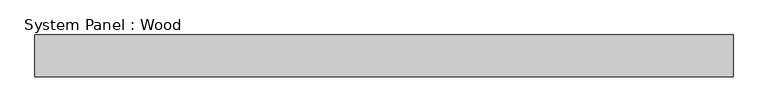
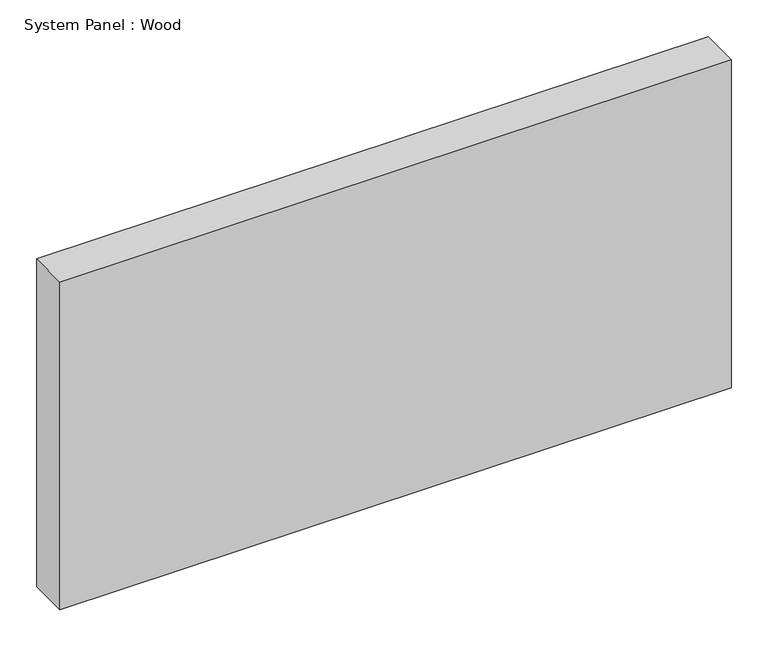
"""IFC4 building model written with IfcOpenShell, lengths in millimetres: plate geometry, System Panel : Wood."""

import ifcopenshell
import ifcopenshell.guid

model = None  # the IFC model being written
_history = None  # IfcOwnerHistory: only IFC2X3 demands one
_inside = {}  # id of a spatial element -> (the spatial element, [elements in it])
_under = {}  # id of a project, library or spatial element -> (it, [spatial elements below it])
_declared = {}  # id of a project -> (the project, [libraries it declares])
_typed = {}  # id of a type object -> (the type object, [elements of that type])
_made_of = {}  # id of a material, layer set ... -> (it, [elements and type objects made of it])


def new_model(schema):
    """Start an empty IFC model of exactly this schema.

    Asked for "IFC4X3", IfcOpenShell would pick the latest addendum, in which some entities
    have other attributes; the version numbers below select the first issue.
    IFC2X3 requires an IfcOwnerHistory on every rooted entity: one is made here for all.
    """
    global model, _history
    if schema == "IFC4X3":
        model = ifcopenshell.file(schema_version=(4, 3, 0, 0))
    else:
        model = ifcopenshell.file(schema=schema)
    _inside.clear()
    _under.clear()
    _declared.clear()
    _typed.clear()
    _made_of.clear()
    _history = None
    if model.schema == "IFC2X3":
        org = make("IfcOrganization", Name="unknown")
        user = make(
            "IfcPersonAndOrganization",
            ThePerson=make("IfcPerson", FamilyName="unknown"),
            TheOrganization=org,
        )
        app = make(
            "IfcApplication",
            ApplicationDeveloper=org,
            Version="unknown",
            ApplicationFullName="unknown",
            ApplicationIdentifier="unknown",
        )
        _history = make(
            "IfcOwnerHistory",
            OwningUser=user,
            OwningApplication=app,
            ChangeAction="ADDED",
            CreationDate=0,
        )
    return model


def make(cls, **values):
    """One entity of the class cls with the attributes given. An attribute that is None is left unset."""
    return model.create_entity(
        cls, **{name: value for name, value in values.items() if value is not None}
    )


def rooted(cls, **values):
    """An entity with a GlobalId (a new one), such as an element, a storey or a relation."""
    return make(cls, GlobalId=ifcopenshell.guid.new(), OwnerHistory=_history, **values)


def si_unit(unit_type, name, prefix=None):
    """IfcSIUnit, for example si_unit("LENGTHUNIT", "METRE", prefix="MILLI")."""
    return make("IfcSIUnit", UnitType=unit_type, Prefix=prefix, Name=name)


def assignment(units):
    """IfcUnitAssignment: the units of a project."""
    return None if units is None else make("IfcUnitAssignment", Units=units)


def point(xyz):
    """IfcCartesianPoint."""
    return None if xyz is None else make("IfcCartesianPoint", Coordinates=xyz)


def direction(xyz):
    """IfcDirection."""
    return None if xyz is None else make("IfcDirection", DirectionRatios=xyz)


def frame(location, z_axis=None, x_axis=None):
    """IfcAxis2Placement3D, a coordinate frame: its origin and axes. An axis left out is left unset."""
    return make(
        "IfcAxis2Placement3D",
        Location=point(location),
        Axis=direction(z_axis),
        RefDirection=direction(x_axis),
    )


def origin():
    """The frame at (0, 0, 0) with its axes left unset."""
    return frame((0.0, 0.0, 0.0))


def origin_with_axes():
    """The frame at (0, 0, 0) with the z axis (0, 0, 1) and the x axis (1, 0, 0) written out."""
    return frame((0.0, 0.0, 0.0), z_axis=(0.0, 0.0, 1.0), x_axis=(1.0, 0.0, 0.0))


def place(relative_to, where):
    """IfcLocalPlacement: puts the frame where relative to a parent placement (None: the world)."""
    return make(
        "IfcLocalPlacement", PlacementRelTo=relative_to, RelativePlacement=where
    )


def context(
    kind, dimensions, precision=None, world=None, true_north=None, identifier=None
):
    """IfcGeometricRepresentationContext, for example the 3D "Model" context."""
    return make(
        "IfcGeometricRepresentationContext",
        ContextIdentifier=identifier,
        ContextType=kind,
        CoordinateSpaceDimension=dimensions,
        Precision=precision,
        WorldCoordinateSystem=world,
        TrueNorth=true_north,
    )


def project(units=None, contexts=None):
    """IfcProject with its units and contexts."""
    return rooted(
        "IfcProject",
        Name="project",
        RepresentationContexts=contexts,
        UnitsInContext=assignment(units),
    )


def spatial(cls, under=None, at=None, **own):
    """A site, building, storey or space (cls), placed at a placement, below another one or the project."""
    s = rooted(cls, ObjectPlacement=at, **own)
    if under is not None:
        _under.setdefault(under.id(), (under, []))[1].append(s)
    return s


def polyline(points):
    """IfcPolyline through the points."""
    return make("IfcPolyline", Points=[point(p) for p in points])


def outline(outer, holes=None, kind="AREA"):
    """IfcArbitraryClosedProfileDef: a profile drawn as a closed curve; with holes, ...WithVoids."""
    if holes is None:
        return make("IfcArbitraryClosedProfileDef", ProfileType=kind, OuterCurve=outer)
    return make(
        "IfcArbitraryProfileDefWithVoids",
        ProfileType=kind,
        OuterCurve=outer,
        InnerCurves=holes,
    )


def extrude(swept, where, along, depth):
    """IfcExtrudedAreaSolid: the profile swept, set in the frame where, extruded along a direction by depth."""
    return make(
        "IfcExtrudedAreaSolid",
        SweptArea=swept,
        Position=where,
        ExtrudedDirection=direction(along),
        Depth=depth,
    )


def shape(context_of_items, identifier, shape_type, items):
    """IfcShapeRepresentation: the items that make up one representation, for example the "Body"."""
    return make(
        "IfcShapeRepresentation",
        ContextOfItems=context_of_items,
        RepresentationIdentifier=identifier,
        RepresentationType=shape_type,
        Items=items,
    )


def source(mapping_origin, context_of_items, identifier, shape_type, items):
    """IfcRepresentationMap: a shape defined once, which mapped items show again and again."""
    return make(
        "IfcRepresentationMap",
        MappingOrigin=mapping_origin,
        MappedRepresentation=shape(context_of_items, identifier, shape_type, items),
    )


def transform(
    local_origin,
    x_axis=None,
    y_axis=None,
    z_axis=None,
    scale=None,
    scale2=None,
    scale3=None,
    uniform=True,
):
    """IfcCartesianTransformationOperator3D, or its non-uniform kind. x_axis, y_axis, z_axis: its Axis1, 2, 3."""
    if uniform:
        return make(
            "IfcCartesianTransformationOperator3D",
            Axis1=direction(x_axis),
            Axis2=direction(y_axis),
            LocalOrigin=point(local_origin),
            Scale=scale,
            Axis3=direction(z_axis),
        )
    return make(
        "IfcCartesianTransformationOperator3DnonUniform",
        Axis1=direction(x_axis),
        Axis2=direction(y_axis),
        LocalOrigin=point(local_origin),
        Scale=scale,
        Axis3=direction(z_axis),
        Scale2=scale2,
        Scale3=scale3,
    )


def mapped(mapping_source, mapping_target):
    """IfcMappedItem: shows the shape of a source again, moved by a transform."""
    return make(
        "IfcMappedItem", MappingSource=mapping_source, MappingTarget=mapping_target
    )


def made_of(thing, what):
    """Note that an element or type object is made of a material, layer set ...; save() writes the relation."""
    if what is not None:
        _made_of.setdefault(what.id(), (what, []))[1].append(thing)
    return thing


def element(
    cls,
    number,
    at=None,
    inside=None,
    cuts=None,
    type_object=None,
    material=None,
    context=None,
    identifier="Body",
    shape_type=None,
    held_by="IfcProductDefinitionShape",
    body=None,
    shapes=None,
    **own,
):
    """One element of the class cls, such as IfcWall. Its Tag is "e" and its number.

    at: its placement. inside: the storey or other place that contains it. cuts: it is an
    opening in that element (IfcRelVoidsElement). A single representation is given by context,
    identifier, shape_type and body (its items); several are given by shapes. held_by: the class
    of the entity that holds the representations. save() writes the other relations.
    """
    e = rooted(cls, Tag="e%d" % number, ObjectPlacement=at, **own)
    if body is not None:
        shapes = [shape(context, identifier, shape_type, body)]
    if shapes is not None:
        e.Representation = make(held_by, Representations=shapes)
    if inside is not None:
        _inside.setdefault(inside.id(), (inside, []))[1].append(e)
    if cuts is not None:
        rooted(
            "IfcRelVoidsElement", RelatingBuildingElement=cuts, RelatedOpeningElement=e
        )
    if type_object is not None:
        _typed.setdefault(type_object.id(), (type_object, []))[1].append(e)
    return made_of(e, material)


def aggregate(whole, parts):
    """IfcRelAggregates: a whole, such as a stair, and the parts it consists of."""
    return rooted("IfcRelAggregates", RelatingObject=whole, RelatedObjects=parts)


def save(model, path):
    """Write the relations noted so far, then the file.

    IfcRelAggregates (storeys below a building ...), IfcRelContainedInSpatialStructure (elements
    in a storey), IfcRelDefinesByType, IfcRelAssociatesMaterial and IfcRelDeclares: one each for
    every whole, place, type object, material and project.
    """
    for whole, parts in _under.values():
        aggregate(whole, parts)
    for where, things in _inside.values():
        rooted(
            "IfcRelContainedInSpatialStructure",
            RelatedElements=things,
            RelatingStructure=where,
        )
    for kind, things in _typed.values():
        rooted("IfcRelDefinesByType", RelatedObjects=things, RelatingType=kind)
    for what, things in _made_of.values():
        rooted("IfcRelAssociatesMaterial", RelatedObjects=things, RelatingMaterial=what)
    for by, libraries in _declared.values():
        rooted("IfcRelDeclares", RelatingContext=by, RelatedDefinitions=libraries)
    model.write(path)


def system_panel_wood_07726084(model_context):
    return source(origin(), model_context, "Body", "SweptSolid", [
        extrude(outline(polyline([(528.955, -44.45), (-528.955, -44.45), (-528.955, 19.05), (528.955, 19.05), (528.955, -44.45)])), origin_with_axes(), (0.0, 0.0, 1.0), 546.1),
    ])


if __name__ == "__main__":
    model = new_model("IFC4")
    model_context = context("Model", 3, world=origin())
    ifc_project = project(units=[si_unit("LENGTHUNIT", "METRE", prefix="MILLI")], contexts=[model_context])
    site = spatial("IfcSite", under=ifc_project)
    building = spatial("IfcBuilding", under=site)
    placement = place(None, origin())
    system_panel_wood_shape = system_panel_wood_07726084(model_context)
    element("IfcPlate", 1, ObjectType="System Panel : Wood", at=placement, inside=building, context=model_context, shape_type="MappedRepresentation", body=[
        mapped(system_panel_wood_shape, transform((0.0, 0.0, 0.0), x_axis=(1.0, 0.0, 0.0), y_axis=(0.0, 1.0, 0.0), z_axis=(0.0, 0.0, 1.0))),
    ])
    save(model, "model.ifc")
